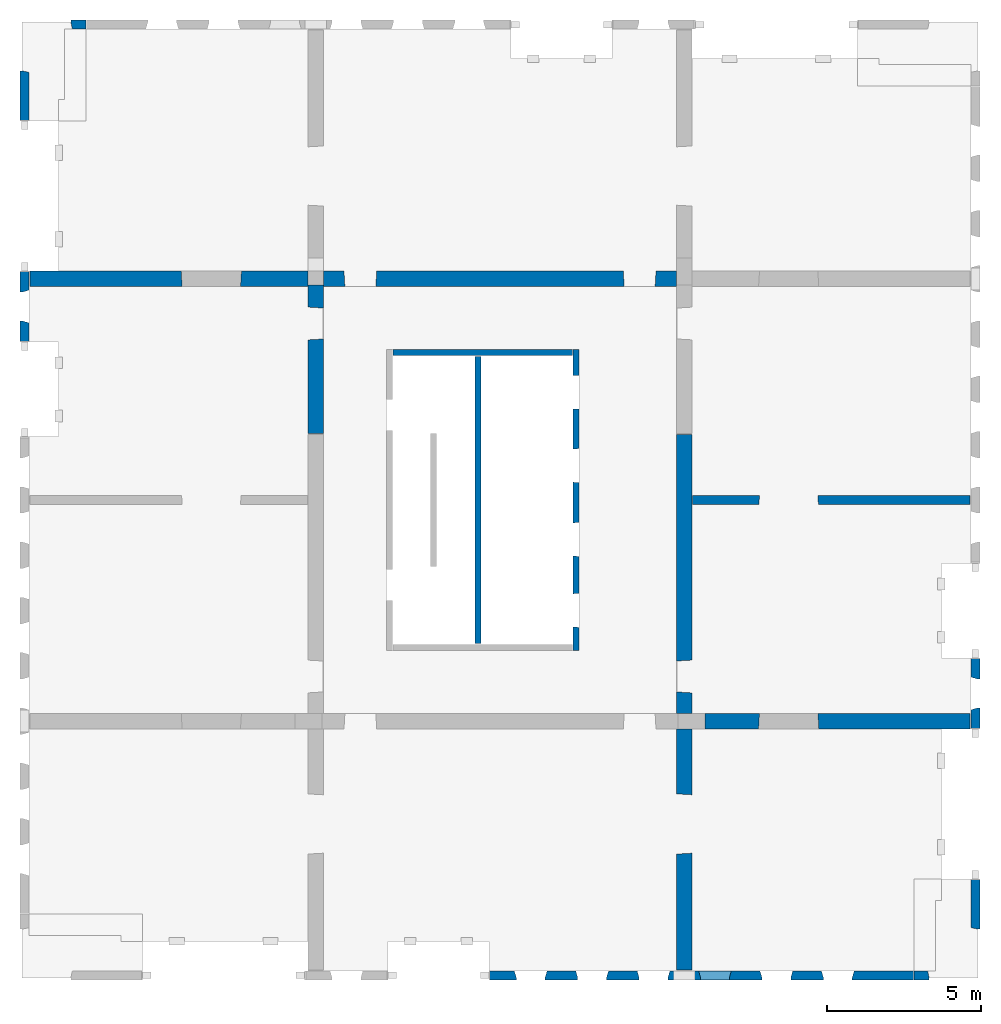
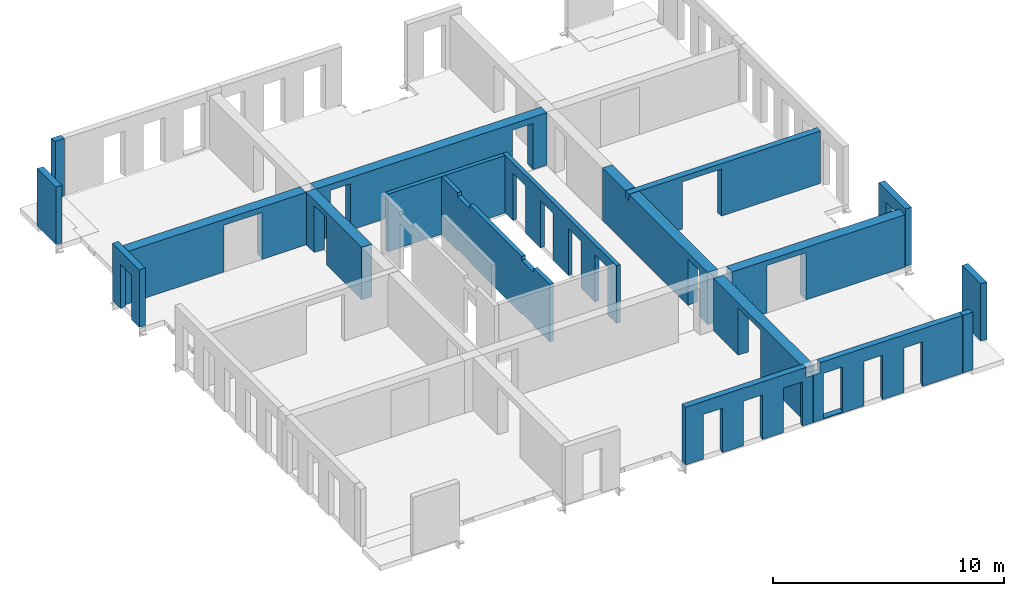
# One storey, part 3 of 4: 18 walls, 36 openings.
"""IFC2X3 building model written with IfcOpenShell, lengths in millimetres."""

from ifc_helpers import new_model, entity, si_unit, converted_unit, derived_unit, direction, frame, frame_2d, origin, origin_2d_with_axis, place, context, subcontext, project, spatial, rectangle, extrude, faceted_brep, material, layer, layer_set, layer_usage, type_object, element, save


model = new_model("IFC2X3")

# Units and contexts
model_context = context("Model", 3, precision=0.01, world=origin(), true_north=direction((6.12303176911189e-17, 1.0)))
body_context = subcontext(model_context, "Body", "Model", "MODEL_VIEW")
ifc_project = project(units=[si_unit("LENGTHUNIT", "METRE", prefix="MILLI"), si_unit("AREAUNIT", "SQUARE_METRE"), si_unit("VOLUMEUNIT", "CUBIC_METRE"), converted_unit("PLANEANGLEUNIT", "DEGREE", entity("IfcRatioMeasure", 0.0174532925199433), si_unit("PLANEANGLEUNIT", "RADIAN"), dimensions=[0, 0, 0, 0, 0, 0, 0]), si_unit("MASSUNIT", "GRAM", prefix="KILO"), derived_unit("MASSDENSITYUNIT", [(si_unit("MASSUNIT", "GRAM", prefix="KILO"), 1), (si_unit("LENGTHUNIT", "METRE"), -3)]), si_unit("TIMEUNIT", "SECOND"), si_unit("FREQUENCYUNIT", "HERTZ"), si_unit("THERMODYNAMICTEMPERATUREUNIT", "DEGREE_CELSIUS"), derived_unit("THERMALTRANSMITTANCEUNIT", [(si_unit("MASSUNIT", "GRAM", prefix="KILO"), 1), (si_unit("THERMODYNAMICTEMPERATUREUNIT", "KELVIN"), -1), (si_unit("TIMEUNIT", "SECOND"), -3)]), derived_unit("VOLUMETRICFLOWRATEUNIT", [(si_unit("LENGTHUNIT", "METRE"), 3), (si_unit("TIMEUNIT", "SECOND"), -1)]), si_unit("ELECTRICCURRENTUNIT", "AMPERE"), si_unit("ELECTRICVOLTAGEUNIT", "VOLT"), si_unit("POWERUNIT", "WATT"), si_unit("FORCEUNIT", "NEWTON", prefix="KILO"), si_unit("ILLUMINANCEUNIT", "LUX"), si_unit("LUMINOUSFLUXUNIT", "LUMEN"), si_unit("LUMINOUSINTENSITYUNIT", "CANDELA"), derived_unit("USERDEFINED", [(si_unit("MASSUNIT", "GRAM", prefix="KILO"), -1), (si_unit("LENGTHUNIT", "METRE"), -2), (si_unit("TIMEUNIT", "SECOND"), 3), (si_unit("LUMINOUSFLUXUNIT", "LUMEN"), 1)]), derived_unit("LINEARVELOCITYUNIT", [(si_unit("LENGTHUNIT", "METRE"), 1), (si_unit("TIMEUNIT", "SECOND"), -1)]), si_unit("PRESSUREUNIT", "PASCAL"), derived_unit("USERDEFINED", [(si_unit("LENGTHUNIT", "METRE"), -2), (si_unit("MASSUNIT", "GRAM", prefix="KILO"), 1), (si_unit("TIMEUNIT", "SECOND"), -2)])], contexts=[model_context])

# Site, building, storey
site_placement = place(None, origin())
site = spatial("IfcSite", under=ifc_project, at=site_placement, Name="Default", CompositionType="ELEMENT")
building_placement = place(site_placement, origin())
building = spatial("IfcBuilding", under=site, at=building_placement, Name="niet gebruiken", CompositionType="ELEMENT")
storey_placement = place(building_placement, frame((0.0, 0.0, 57780.0)))
storey = spatial("IfcBuildingStorey", under=building, at=storey_placement, Name="18 achttiende verdieping", CompositionType="ELEMENT", Elevation=57780.0)

# Wall, openings
ifc_material = material(Name="NLRS_f2_beton prefab")
ifc_layer_1 = layer(ifc_material, 200.0)
ifc_layer_set_1 = layer_set([ifc_layer_1], Name="Basic Wall:NLRS_22.21_WA_beton prefab d=200_gen")
ifc_layer_usage_1 = layer_usage(ifc_layer_set_1, "AXIS2", "NEGATIVE", 100.0)
wall_type_1 = type_object("IfcWallType", Name="Basic Wall:NLRS_22.21_WA_beton prefab d=200_gen", PredefinedType="STANDARD", material=ifc_layer_set_1)
wall_1_placement = place(storey_placement, frame((144230.0, 22400.0, -50.0), z_axis=(0.0, 0.0, 1.0), x_axis=(0.0, -1.0, 0.0)))
wall_1 = element("IfcWallStandardCase", 1, at=wall_1_placement, inside=storey, type_object=wall_type_1, material=ifc_layer_usage_1, Name="Basic Wall:NLRS_22.21_WA_beton prefab d=200_gen", ObjectType="Basic Wall:NLRS_22.21_WA_beton prefab d=200_gen", context=body_context, shape_type="SweptSolid", body=[
    extrude(rectangle(XDim=9800.0, YDim=199.999999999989, at=frame_2d((4900.0, -3.69482222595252e-13), x_axis=(-1.0, 0.0))), origin(), (0.0, 0.0, 1.0), 3040.0),
])
opening_1_placement = place(wall_1_placement, frame((9047.0, -100.0, 0.0)))
element("IfcOpeningElement", 2, at=opening_1_placement, cuts=wall_1, Name="Basic Wall:NLRS_22.21_WA_beton prefab d=200_gen", ObjectType="Opening", context=body_context, shape_type="Brep", body=[
    faceted_brep([(-1104.0, 200.0, 2502.0), (-1104.0, 200.0, 0.0), (-1092.0, 0.0, 0.0), (-1092.0, 0.0, 2490.0), (0.0, 200.0, 0.0), (-12.0, 0.0, 0.0), (-12.0, 0.0, 2490.0), (0.0, 200.0, 2502.0)], [[[0, 1, 2, 3]], [[1, 4, 5, 2]], [[6, 3, 2, 5]], [[7, 4, 1, 0]], [[7, 0, 3, 6]], [[4, 7, 6, 5]]]),
])
opening_2_placement = place(wall_1_placement, frame((6737.0, -100.0, 0.0)))
element("IfcOpeningElement", 3, at=opening_2_placement, cuts=wall_1, Name="Basic Wall:NLRS_22.21_WA_beton prefab d=200_gen", ObjectType="Opening", context=body_context, shape_type="Brep", body=[
    faceted_brep([(-1104.0, 200.0, 2502.0), (-1104.0, 200.0, 0.0), (-1092.0, 0.0, 0.0), (-1092.0, 0.0, 2490.0), (0.0, 200.0, 0.0), (-12.0, 0.0, 0.0), (-12.0, 0.0, 2490.0), (0.0, 200.0, 2502.0)], [[[0, 1, 2, 3]], [[1, 4, 5, 2]], [[6, 3, 2, 5]], [[7, 4, 1, 0]], [[7, 0, 3, 6]], [[4, 7, 6, 5]]]),
])
opening_3_placement = place(wall_1_placement, frame((4332.0, -100.0, 0.0)))
element("IfcOpeningElement", 4, at=opening_3_placement, cuts=wall_1, Name="Basic Wall:NLRS_22.21_WA_beton prefab d=200_gen", ObjectType="Opening", context=body_context, shape_type="Brep", body=[
    faceted_brep([(-1104.0, 200.0, 2502.0), (-1104.0, 200.0, 0.0), (-1092.0, 0.0, 0.0), (-1092.0, 0.0, 2490.0), (0.0, 200.0, 0.0), (-12.0, 0.0, 0.0), (-12.0, 0.0, 2490.0), (0.0, 200.0, 2502.0)], [[[0, 1, 2, 3]], [[1, 4, 5, 2]], [[6, 3, 2, 5]], [[7, 4, 1, 0]], [[7, 0, 3, 6]], [[4, 7, 6, 5]]]),
])
opening_4_placement = place(wall_1_placement, frame((1942.0, -100.0, 0.0)))
element("IfcOpeningElement", 5, at=opening_4_placement, cuts=wall_1, Name="Basic Wall:NLRS_22.21_WA_beton prefab d=200_gen", ObjectType="Opening", context=body_context, shape_type="Brep", body=[
    faceted_brep([(-1104.0, 200.0, 2502.0), (-1104.0, 200.0, 0.0), (-1092.0, 0.0, 0.0), (-1092.0, 0.0, 2490.0), (0.0, 200.0, 0.0), (-12.0, 0.0, 0.0), (-12.0, 0.0, 2490.0), (0.0, 200.0, 2502.0)], [[[0, 1, 2, 3]], [[1, 4, 5, 2]], [[6, 3, 2, 5]], [[7, 4, 1, 0]], [[7, 0, 3, 6]], [[4, 7, 6, 5]]]),
])

ifc_layer_usage_2 = layer_usage(ifc_layer_set_1, "AXIS2", "NEGATIVE", 100.0)
wall_2_placement = place(storey_placement, frame((141030.0, 22180.0, -50.0), z_axis=(0.0, 0.0, 1.0), x_axis=(0.0, -1.0, 0.0)))
wall_2 = element("IfcWallStandardCase", 6, at=wall_2_placement, inside=storey, type_object=wall_type_1, material=ifc_layer_usage_2, Name="Basic Wall:NLRS_22.21_WA_beton prefab d=200_gen", ObjectType="Basic Wall:NLRS_22.21_WA_beton prefab d=200_gen", context=body_context, shape_type="SweptSolid", body=[
    extrude(rectangle(XDim=9360.0, YDim=199.999999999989, at=frame_2d((4680.0, -2.8421709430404e-14), x_axis=(-1.0, 0.0))), origin(), (0.0, 0.0, 1.0), 3040.0),
])
opening_5_placement = place(wall_2_placement, origin())
element("IfcOpeningElement", 7, at=opening_5_placement, cuts=wall_2, Name="Basic Wall:NLRS_22.21_WA_beton prefab d=200_gen", ObjectType="Opening", context=body_context, shape_type="SweptSolid", body=[
    extrude(rectangle(XDim=70.0000000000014, YDim=1044.00000000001, at=frame_2d((-8.66506866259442e-12, 0.0), x_axis=(1.0, 0.0))), frame((7452.0, -100.0, 35.0), z_axis=(0.0, 1.0, 0.0), x_axis=(0.0, 0.0, -1.0)), (0.0, 0.0, 1.0), 199.999999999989),
])
opening_6_placement = place(wall_2_placement, origin())
element("IfcOpeningElement", 8, at=opening_6_placement, cuts=wall_2, Name="Basic Wall:NLRS_22.21_WA_beton prefab d=200_gen", ObjectType="Opening", context=body_context, shape_type="SweptSolid", body=[
    extrude(rectangle(XDim=70.0000000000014, YDim=1044.00000000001, at=frame_2d((-8.66506866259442e-12, 0.0), x_axis=(1.0, 0.0))), frame((1908.0, -100.0, 35.0), z_axis=(0.0, 1.0, 0.0), x_axis=(0.0, 0.0, -1.0)), (0.0, 0.0, 1.0), 199.999999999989),
])
opening_7_placement = place(wall_2_placement, origin())
element("IfcOpeningElement", 9, at=opening_7_placement, cuts=wall_2, Name="Basic Wall:NLRS_22.21_WA_beton prefab d=200_gen", ObjectType="Opening", context=body_context, shape_type="SweptSolid", body=[
    extrude(rectangle(XDim=199.999999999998, YDim=1044.00000000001, at=frame_2d((4.33431068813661e-12, 0.0), x_axis=(1.0, 0.0))), frame((1908.0, -100.0, 2940.0), z_axis=(0.0, 1.0, 0.0), x_axis=(0.0, 0.0, -1.0)), (0.0, 0.0, 1.0), 199.999999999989),
])
opening_8_placement = place(wall_2_placement, origin())
element("IfcOpeningElement", 10, at=opening_8_placement, cuts=wall_2, Name="Basic Wall:NLRS_22.21_WA_beton prefab d=200_gen", ObjectType="Opening", context=body_context, shape_type="SweptSolid", body=[
    extrude(rectangle(XDim=199.999999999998, YDim=1044.00000000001, at=frame_2d((4.33431068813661e-12, 0.0), x_axis=(1.0, 0.0))), frame((7452.0, -100.0, 2940.0), z_axis=(0.0, 1.0, 0.0), x_axis=(0.0, 0.0, -1.0)), (0.0, 0.0, 1.0), 199.999999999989),
])
opening_9_placement = place(wall_2_placement, origin())
element("IfcOpeningElement", 11, at=opening_9_placement, cuts=wall_2, Name="Basic Wall:NLRS_22.21_WA_beton prefab d=200_gen", ObjectType="Recess", context=body_context, shape_type="SweptSolid", body=[
    extrude(rectangle(XDim=399.999999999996, YDim=280.000000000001, at=frame_2d((-2.1600499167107e-12, 0.0), x_axis=(0.0, 1.0))), frame((770.0, -60.0, 438.0), z_axis=(0.0, 1.0, 0.0), x_axis=(1.0, 0.0, 0.0)), (0.0, 0.0, 1.0), 159.999999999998),
])
opening_10_placement = place(wall_2_placement, origin())
element("IfcOpeningElement", 12, at=opening_10_placement, cuts=wall_2, Name="Basic Wall:NLRS_22.21_WA_beton prefab d=200_gen", ObjectType="Recess", context=body_context, shape_type="SweptSolid", body=[
    extrude(rectangle(XDim=399.999999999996, YDim=280.000000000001, at=frame_2d((-2.1600499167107e-12, 0.0), x_axis=(0.0, 1.0))), frame((1570.0, -60.0, 438.0), z_axis=(0.0, 1.0, 0.0), x_axis=(1.0, 0.0, 0.0)), (0.0, 0.0, 1.0), 159.999999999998),
])
opening_11_placement = place(wall_2_placement, origin())
element("IfcOpeningElement", 13, at=opening_11_placement, cuts=wall_2, Name="Basic Wall:NLRS_22.21_WA_beton prefab d=200_gen", ObjectType="Recess", context=body_context, shape_type="SweptSolid", body=[
    extrude(rectangle(XDim=399.999999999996, YDim=279.999999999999, at=frame_2d((-1.08002495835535e-12, 0.0), x_axis=(0.0, 1.0))), frame((3160.0, -60.0, 438.0), z_axis=(0.0, 1.0, 0.0), x_axis=(1.0, 0.0, 0.0)), (0.0, 0.0, 1.0), 159.999999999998),
])
opening_12_placement = place(wall_2_placement, origin())
element("IfcOpeningElement", 14, at=opening_12_placement, cuts=wall_2, Name="Basic Wall:NLRS_22.21_WA_beton prefab d=200_gen", ObjectType="Recess", context=body_context, shape_type="SweptSolid", body=[
    extrude(rectangle(XDim=399.999999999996, YDim=279.999999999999, at=frame_2d((1.08002495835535e-12, 0.0), x_axis=(0.0, 1.0))), frame((3960.0, -60.0, 438.0), z_axis=(0.0, 1.0, 0.0), x_axis=(1.0, 0.0, 0.0)), (0.0, 0.0, 1.0), 159.999999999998),
])

# Wall
ifc_layer_usage_3 = layer_usage(ifc_layer_set_1, "AXIS2", "NEGATIVE", 100.0)
wall_3_placement = place(storey_placement, frame((138270.0, 22300.0, -50.0)))
element("IfcWallStandardCase", 15, at=wall_3_placement, inside=storey, type_object=wall_type_1, material=ifc_layer_usage_3, Name="Basic Wall:NLRS_22.21_WA_beton prefab d=200_gen", ObjectType="Basic Wall:NLRS_22.21_WA_beton prefab d=200_gen", context=body_context, shape_type="SweptSolid", body=[
    extrude(rectangle(XDim=5839.99999999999, YDim=199.999999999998, at=frame_2d((2919.99999999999, -7.60280727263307e-13), x_axis=(-1.0, 0.0))), origin(), (0.0, 0.0, 1.0), 3040.0),
])

# Wall, openings
ifc_layer_2 = layer(ifc_material, 300.0)
ifc_layer_set_2 = layer_set([ifc_layer_2], Name="Basic Wall:NLRS_22.21_WA_beton prefab d=300_gen")
ifc_layer_usage_4 = layer_usage(ifc_layer_set_2, "AXIS2", "NEGATIVE", 150.0)
wall_type_2 = type_object("IfcWallType", Name="Basic Wall:NLRS_22.21_WA_beton prefab d=300_gen", PredefinedType="STANDARD", material=ifc_layer_set_2)
wall_4_placement = place(storey_placement, frame((157060.0, 17500.0, -70.0), z_axis=(0.0, 0.0, 1.0), x_axis=(-1.0, 0.0, 0.0)))
wall_4 = element("IfcWallStandardCase", 16, at=wall_4_placement, inside=storey, type_object=wall_type_2, material=ifc_layer_usage_4, Name="Basic Wall:NLRS_22.21_WA_beton prefab d=300_gen", ObjectType="Basic Wall:NLRS_22.21_WA_beton prefab d=300_gen", context=body_context, shape_type="SweptSolid", body=[
    extrude(rectangle(XDim=9559.9999999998, YDim=300.000000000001, at=frame_2d((4779.9999999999, -7.53175299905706e-13), x_axis=(-1.0, 0.0))), origin(), (0.0, 0.0, 1.0), 2770.00000000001),
])
opening_13_placement = place(wall_4_placement, frame((6878.0, 150.0, 0.0)))
element("IfcOpeningElement", 17, at=opening_13_placement, cuts=wall_4, Name="Basic Wall:NLRS_22.21_WA_beton prefab d=300_gen", ObjectType="Opening", context=body_context, shape_type="Brep", body=[
    faceted_brep([(-18.0, -300.0, 2470.0), (-1918.0, -300.0, 2470.0), (-1918.0, -300.0, 0.0), (-18.0, -300.0, 0.0), (0.0, 0.0, 2488.0), (0.0, 0.0, 0.0), (-1936.0, 0.0, 0.0), (-1936.0, 0.0, 2488.0)], [[[0, 1, 2, 3]], [[4, 5, 6, 7]], [[4, 7, 1, 0]], [[7, 6, 2, 1]], [[6, 5, 3, 2]], [[5, 4, 0, 3]]]),
])
opening_14_placement = place(wall_4_placement, origin())
element("IfcOpeningElement", 18, at=opening_14_placement, cuts=wall_4, Name="Basic Wall:NLRS_22.21_WA_beton prefab d=300_gen", ObjectType="Opening", context=body_context, shape_type="SweptSolid", body=[
    extrude(rectangle(XDim=2440.00000000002, YDim=520.000000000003, at=frame_2d((8.64019966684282e-12, 0.0), x_axis=(0.0, 1.0))), frame((9300.0, 150.0, 1220.0), z_axis=(0.0, -1.0, 0.0), x_axis=(1.0, 0.0, 0.0)), (0.0, 0.0, 1.0), 300.0),
])

ifc_layer_3 = layer(ifc_material, 500.0)
ifc_layer_set_3 = layer_set([ifc_layer_3], Name="Basic Wall:NLRS_22.21_WA_beton prefab d=500_gen")
ifc_layer_usage_5 = layer_usage(ifc_layer_set_3, "AXIS2", "NEGATIVE", 250.0)
wall_type_3 = type_object("IfcWallType", Name="Basic Wall:NLRS_22.21_WA_beton prefab d=500_gen", PredefinedType="STANDARD", material=ifc_layer_set_3)
wall_5_placement = place(storey_placement, frame((136000.0, 24700.0, -70.0)))
wall_5 = element("IfcWallStandardCase", 19, at=wall_5_placement, inside=storey, type_object=wall_type_3, material=ifc_layer_usage_5, Name="Basic Wall:NLRS_22.21_WA_beton prefab d=500_gen", ObjectType="Basic Wall:NLRS_22.21_WA_beton prefab d=500_gen", context=body_context, shape_type="SweptSolid", body=[
    extrude(rectangle(XDim=11500.0, YDim=499.999999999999, at=frame_2d((5750.00000000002, 0.0), x_axis=(-1.0, 0.0))), origin(), (0.0, 0.0, 1.0), 2770.00000000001),
])
opening_15_placement = place(wall_5_placement, frame((670.0, -250.0, 0.0)))
element("IfcOpeningElement", 20, at=opening_15_placement, cuts=wall_5, Name="Basic Wall:NLRS_22.21_WA_beton prefab d=500_gen", ObjectType="Opening", context=body_context, shape_type="Brep", body=[
    faceted_brep([(1066.0, 500.0, 2478.0), (1036.0, 0.0, 2448.0), (1036.0, 0.0, 0.0), (1066.0, 500.0, 0.0), (30.0, 0.0, 0.0), (0.0, 500.0, 0.0), (30.0, 0.0, 2448.0), (0.0, 500.0, 2478.0)], [[[0, 1, 2, 3]], [[3, 2, 4, 5]], [[6, 4, 2, 1]], [[7, 0, 3, 5]], [[7, 6, 1, 0]], [[5, 4, 6, 7]]]),
])
opening_16_placement = place(wall_5_placement, frame((9764.0, -250.0, 0.0)))
element("IfcOpeningElement", 21, at=opening_16_placement, cuts=wall_5, Name="Basic Wall:NLRS_22.21_WA_beton prefab d=500_gen", ObjectType="Opening", context=body_context, shape_type="Brep", body=[
    faceted_brep([(30.0, 0.0, 2448.0), (30.0, 0.0, 0.0), (1036.0, 0.0, 0.0), (1036.0, 0.0, 2448.0), (0.0, 500.0, 2478.0), (1066.0, 500.0, 2478.0), (1066.0, 500.0, 0.0), (0.0, 500.0, 0.0)], [[[0, 1, 2, 3]], [[4, 5, 6, 7]], [[4, 0, 3, 5]], [[5, 3, 2, 6]], [[6, 2, 1, 7]], [[7, 1, 0, 4]]]),
])

# Wall, opening
ifc_layer_usage_6 = layer_usage(ifc_layer_set_3, "AXIS2", "NEGATIVE", 250.0)
wall_6_placement = place(storey_placement, frame((147750.0, 10050.0, -70.0), z_axis=(0.0, 0.0, 1.0), x_axis=(0.0, -1.0, 0.0)))
wall_6 = element("IfcWallStandardCase", 22, at=wall_6_placement, inside=storey, type_object=wall_type_3, material=ifc_layer_usage_6, Name="Basic Wall:NLRS_22.21_WA_beton prefab d=500_gen", ObjectType="Basic Wall:NLRS_22.21_WA_beton prefab d=500_gen", context=body_context, shape_type="SweptSolid", body=[
    extrude(rectangle(XDim=7859.99999999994, YDim=499.99999999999, at=frame_2d((3929.99999999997, 8.5265128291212e-14), x_axis=(-1.0, 0.0))), origin(), (0.0, 0.0, 1.0), 2769.99999999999),
])
opening_17_placement = place(wall_6_placement, frame((4080.0, -250.0, 0.0)))
element("IfcOpeningElement", 23, at=opening_17_placement, cuts=wall_6, Name="Basic Wall:NLRS_22.21_WA_beton prefab d=500_gen", ObjectType="Opening", context=body_context, shape_type="Brep", body=[
    faceted_brep([(-30.0, 500.0, 2470.0), (-30.0, 500.0, 0.0), (-1930.0, 500.0, 0.0), (-1930.0, 500.0, 2470.0), (0.0, 0.0, 2500.0), (-1960.0, 0.0, 2500.0), (-1960.0, 0.0, 0.0), (0.0, 0.0, 0.0)], [[[0, 1, 2, 3]], [[4, 5, 6, 7]], [[4, 0, 3, 5]], [[5, 3, 2, 6]], [[6, 2, 1, 7]], [[7, 1, 0, 4]]]),
])

ifc_layer_usage_7 = layer_usage(ifc_layer_set_3, "AXIS2", "NEGATIVE", 250.0)
wall_7_placement = place(storey_placement, frame((135500.0, 24700.0, -70.0), z_axis=(0.0, 0.0, 1.0), x_axis=(-1.0, 0.0, 0.0)))
wall_7 = element("IfcWallStandardCase", 24, at=wall_7_placement, inside=storey, type_object=wall_type_3, material=ifc_layer_usage_7, Name="Basic Wall:NLRS_22.21_WA_beton prefab d=500_gen", ObjectType="Basic Wall:NLRS_22.21_WA_beton prefab d=500_gen", context=body_context, shape_type="SweptSolid", body=[
    extrude(rectangle(XDim=9059.9999999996, YDim=499.999999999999, at=frame_2d((4529.9999999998, 7.24753590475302e-13), x_axis=(-1.0, 0.0))), origin(), (0.0, 0.0, 1.0), 2769.99999999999),
])
opening_18_placement = place(wall_7_placement, frame((4130.0, 250.0, 0.0)))
element("IfcOpeningElement", 25, at=opening_18_placement, cuts=wall_7, Name="Basic Wall:NLRS_22.21_WA_beton prefab d=500_gen", ObjectType="Opening", context=body_context, shape_type="Brep", body=[
    faceted_brep([(-1930.0, 0.0, 2470.0), (-30.0, 0.0, 2470.0), (-30.0, 0.0, 0.0), (-1930.0, 0.0, 0.0), (-1960.0, -500.0, 2500.0), (-1960.0, -500.0, 0.0), (0.0, -500.0, 0.0), (0.0, -500.0, 2500.0)], [[[0, 1, 2, 3]], [[4, 5, 6, 7]], [[4, 7, 1, 0]], [[7, 6, 2, 1]], [[6, 5, 3, 2]], [[5, 4, 0, 3]]]),
])

ifc_layer_usage_8 = layer_usage(ifc_layer_set_3, "AXIS2", "NEGATIVE", 250.0)
wall_8_placement = place(storey_placement, frame((148430.0, 10300.0, -70.0)))
wall_8 = element("IfcWallStandardCase", 26, at=wall_8_placement, inside=storey, type_object=wall_type_3, material=ifc_layer_usage_8, Name="Basic Wall:NLRS_22.21_WA_beton prefab d=500_gen", ObjectType="Basic Wall:NLRS_22.21_WA_beton prefab d=500_gen", context=body_context, shape_type="SweptSolid", body=[
    extrude(rectangle(XDim=8630.00000000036, YDim=499.999999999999, at=frame_2d((4315.00000000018, 2.70006239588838e-13), x_axis=(-1.0, 0.0))), origin(), (0.0, 0.0, 1.0), 2769.99999999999),
])
opening_19_placement = place(wall_8_placement, frame((1740.0, -250.0, 0.0)))
element("IfcOpeningElement", 27, at=opening_19_placement, cuts=wall_8, Name="Basic Wall:NLRS_22.21_WA_beton prefab d=500_gen", ObjectType="Opening", context=body_context, shape_type="Brep", body=[
    faceted_brep([(30.0, 500.0, 2470.0), (1930.0, 500.0, 2470.0), (1930.0, 500.0, 0.0), (30.0, 500.0, 0.0), (0.0, 0.0, 2500.0), (0.0, 0.0, 0.0), (1960.0, 0.0, 0.0), (1960.0, 0.0, 2500.0)], [[[0, 1, 2, 3]], [[4, 5, 6, 7]], [[4, 7, 1, 0]], [[7, 6, 2, 1]], [[6, 5, 3, 2]], [[5, 4, 0, 3]]]),
])

ifc_layer_usage_9 = layer_usage(ifc_layer_set_3, "AXIS2", "NEGATIVE", 250.0)
wall_9_placement = place(storey_placement, frame((135750.0, 24500.0, -70.0), z_axis=(0.0, 0.0, 1.0), x_axis=(0.0, -1.0, 0.0)))
wall_9 = element("IfcWallStandardCase", 28, at=wall_9_placement, inside=storey, type_object=wall_type_3, material=ifc_layer_usage_9, Name="Basic Wall:NLRS_22.21_WA_beton prefab d=500_gen", ObjectType="Basic Wall:NLRS_22.21_WA_beton prefab d=500_gen", context=body_context, shape_type="SweptSolid", body=[
    extrude(rectangle(XDim=4840.0, YDim=499.99999999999, at=frame_2d((2420.0, 0.0), x_axis=(-1.0, 0.0))), origin(), (0.0, 0.0, 1.0), 2770.00000000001),
])
opening_20_placement = place(wall_9_placement, frame((1786.0, -250.0, 0.0)))
element("IfcOpeningElement", 29, at=opening_20_placement, cuts=wall_9, Name="Basic Wall:NLRS_22.21_WA_beton prefab d=500_gen", ObjectType="Opening", context=body_context, shape_type="Brep", body=[
    faceted_brep([(-1066.0, 0.0, 2478.0), (-1036.0, 500.0, 2448.0), (-1036.0, 500.0, 0.0), (-1066.0, 0.0, 0.0), (-30.0, 500.0, 0.0), (0.0, 0.0, 0.0), (-30.0, 500.0, 2448.0), (0.0, 0.0, 2478.0)], [[[0, 1, 2, 3]], [[3, 2, 4, 5]], [[6, 4, 2, 1]], [[7, 0, 3, 5]], [[7, 6, 1, 0]], [[5, 4, 6, 7]]]),
])

# Wall, openings
ifc_layer_usage_10 = layer_usage(ifc_layer_set_3, "AXIS2", "NEGATIVE", 250.0)
wall_10_placement = place(storey_placement, frame((147750.0, 19640.0, -70.0), z_axis=(0.0, 0.0, 1.0), x_axis=(0.0, -1.0, 0.0)))
wall_10 = element("IfcWallStandardCase", 30, at=wall_10_placement, inside=storey, type_object=wall_type_3, material=ifc_layer_usage_10, Name="Basic Wall:NLRS_22.21_WA_beton prefab d=500_gen", ObjectType="Basic Wall:NLRS_22.21_WA_beton prefab d=500_gen", context=body_context, shape_type="SweptSolid", body=[
    extrude(rectangle(XDim=9089.99999999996, YDim=499.99999999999, at=frame_2d((4544.99999999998, 0.0), x_axis=(-1.0, 0.0))), origin(), (0.0, 0.0, 1.0), 2770.00000000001),
])
opening_21_placement = place(wall_10_placement, frame((8420.0, -250.0, 0.0)))
element("IfcOpeningElement", 31, at=opening_21_placement, cuts=wall_10, Name="Basic Wall:NLRS_22.21_WA_beton prefab d=500_gen", ObjectType="Opening", context=body_context, shape_type="Brep", body=[
    faceted_brep([(-1066.0, 500.0, 2478.0), (-1066.0, 500.0, 0.0), (-1036.0, 0.0, 0.0), (-1036.0, 0.0, 2448.0), (0.0, 500.0, 0.0), (-30.0, 0.0, 0.0), (-30.0, 0.0, 2448.0), (0.0, 500.0, 2478.0)], [[[0, 1, 2, 3]], [[1, 4, 5, 2]], [[6, 3, 2, 5]], [[7, 4, 1, 0]], [[7, 0, 3, 6]], [[4, 7, 6, 5]]]),
])
opening_22_placement = place(wall_10_placement, origin())
element("IfcOpeningElement", 32, at=opening_22_placement, cuts=wall_10, Name="Basic Wall:NLRS_22.21_WA_beton prefab d=500_gen", ObjectType="Opening", context=body_context, shape_type="SweptSolid", body=[
    extrude(rectangle(XDim=350.000000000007, YDim=339.999999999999, at=frame_2d((-1.08002495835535e-12, 0.0), x_axis=(0.0, 1.0))), frame((2140.0, 250.0, 2595.0), z_axis=(0.0, -1.0, 0.0), x_axis=(-1.0, 0.0, 0.0)), (0.0, 0.0, 1.0), 500.0),
])

# Wall, opening
ifc_layer_4 = layer(ifc_material, 300.0)
ifc_layer_set_4 = layer_set([ifc_layer_4], Name="Basic Wall:NLRS_21.21_WA_beton prefab d=300/320_gen")
ifc_layer_usage_11 = layer_usage(ifc_layer_set_4, "AXIS2", "NEGATIVE", 150.0)
wall_type_4 = type_object("IfcWallType", Name="Basic Wall:NLRS_21.21_WA_beton prefab d=300/320_gen", PredefinedType="STANDARD", material=ifc_layer_set_4)
wall_11_placement = place(storey_placement, frame((157230.0, 12360.0, -50.0), z_axis=(0.0, 0.0, 1.0), x_axis=(0.0, -1.0, 0.0)))
wall_11 = element("IfcWallStandardCase", 33, at=wall_11_placement, inside=storey, type_object=wall_type_4, material=ifc_layer_usage_11, Name="Basic Wall:NLRS_21.21_WA_beton prefab d=300/320_gen", ObjectType="Basic Wall:NLRS_21.21_WA_beton prefab d=300/320_gen", context=body_context, shape_type="SweptSolid", body=[
    extrude(rectangle(XDim=2320.00000000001, YDim=300.000000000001, at=frame_2d((1160.0, -8.38440428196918e-12), x_axis=(-1.0, 0.0))), origin(), (0.0, 0.0, 1.0), 3040.0),
])
opening_23_placement = place(wall_11_placement, frame((1695.0, -150.0, -20.0)))
element("IfcOpeningElement", 34, at=opening_23_placement, cuts=wall_11, Name="Basic Wall:NLRS_21.21_WA_beton prefab d=300/320_gen", ObjectType="Opening", context=body_context, shape_type="Brep", body=[
    faceted_brep([(-1070.0, 0.0, 2405.0), (-1070.0, 0.0, 0.0), (0.0, 0.0, 0.0), (0.0, 0.0, 2405.0), (-65.0, 219.0, 2370.0), (-1005.0, 219.0, 2370.0), (-65.0, 219.0, 0.0), (-1005.0, 219.0, 0.0), (-1005.0, 300.0, 0.0), (-65.0, 300.0, 0.0), (-1005.0, 300.0, 2370.0), (-65.0, 300.0, 2370.0)], [[[0, 1, 2, 3]], [[3, 4, 5, 0]], [[2, 6, 4, 3]], [[1, 7, 8, 9, 6, 2]], [[0, 5, 7, 1]], [[10, 11, 9, 8]], [[10, 5, 4, 11]], [[11, 4, 6, 9]], [[8, 7, 5, 10]]]),
])

ifc_layer_usage_12 = layer_usage(ifc_layer_set_4, "AXIS2", "NEGATIVE", 150.0)
wall_12_placement = place(storey_placement, frame((126270.0, 22640.0, -50.0), z_axis=(0.0, 0.0, 1.0), x_axis=(0.0, 1.0, 0.0)))
wall_12 = element("IfcWallStandardCase", 35, at=wall_12_placement, inside=storey, type_object=wall_type_4, material=ifc_layer_usage_12, Name="Basic Wall:NLRS_21.21_WA_beton prefab d=300/320_gen", ObjectType="Basic Wall:NLRS_21.21_WA_beton prefab d=300/320_gen", context=body_context, shape_type="SweptSolid", body=[
    extrude(rectangle(XDim=2320.0, YDim=300.000000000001, at=frame_2d((1160.0, -3.60955709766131e-12), x_axis=(-1.0, 0.0))), origin(), (0.0, 0.0, 1.0), 3040.0),
])
opening_24_placement = place(wall_12_placement, frame((625.0, 150.0, -20.0)))
element("IfcOpeningElement", 36, at=opening_24_placement, cuts=wall_12, Name="Basic Wall:NLRS_21.21_WA_beton prefab d=300/320_gen", ObjectType="Opening", context=body_context, shape_type="Brep", body=[
    faceted_brep([(0.0, -300.0, 2405.0), (0.0, -300.0, 0.0), (1070.0, -300.0, 0.0), (1070.0, -300.0, 2405.0), (1005.0, -81.0, 2370.0), (65.0, -81.0, 2370.0), (1005.0, -81.0, 0.0), (65.0, -81.0, 0.0), (65.0, 0.0, 0.0), (1005.0, 0.0, 0.0), (65.0, 0.0, 2370.0), (1005.0, 0.0, 2370.0)], [[[0, 1, 2, 3]], [[3, 4, 5, 0]], [[2, 6, 4, 3]], [[1, 7, 8, 9, 6, 2]], [[0, 5, 7, 1]], [[10, 11, 9, 8]], [[10, 5, 4, 11]], [[11, 4, 6, 9]], [[8, 7, 5, 10]]]),
])

# Wall, openings
ifc_layer_usage_13 = layer_usage(ifc_layer_set_4, "AXIS2", "NEGATIVE", 150.0)
wall_13_placement = place(storey_placement, frame((155210.0, 2020.0, -50.0), z_axis=(0.0, 0.0, 1.0), x_axis=(-1.0, 0.0, 0.0)))
wall_13 = element("IfcWallStandardCase", 37, at=wall_13_placement, inside=storey, type_object=wall_type_4, material=ifc_layer_usage_13, Name="Basic Wall:NLRS_21.21_WA_beton prefab d=300/320_gen", ObjectType="Basic Wall:NLRS_21.21_WA_beton prefab d=300/320_gen", context=body_context, shape_type="SweptSolid", body=[
    extrude(rectangle(XDim=7449.99999999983, YDim=300.0, at=frame_2d((3724.99999999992, 5.6843418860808e-14), x_axis=(-1.0, 0.0))), origin(), (0.0, 0.0, 1.0), 3040.0),
])
opening_25_placement = place(wall_13_placement, frame((4995.0, 150.0, -20.0)))
element("IfcOpeningElement", 38, at=opening_25_placement, cuts=wall_13, Name="Basic Wall:NLRS_21.21_WA_beton prefab d=300/320_gen", ObjectType="Opening", context=body_context, shape_type="Brep", body=[
    faceted_brep([(0.0, -300.0, 2405.0), (-1070.0, -300.0, 2405.0), (-1070.0, -300.0, 0.0), (0.0, -300.0, 0.0), (-65.0, -81.0, 2370.0), (-1005.0, -81.0, 2370.0), (-1005.0, -81.0, 0.0), (-1005.0, 0.0, 0.0), (-65.0, 0.0, 0.0), (-65.0, -81.0, 0.0), (-65.0, 0.0, 2370.0), (-1005.0, 0.0, 2370.0)], [[[0, 1, 2, 3]], [[1, 0, 4, 5]], [[2, 1, 5, 6]], [[3, 2, 6, 7, 8, 9]], [[0, 3, 9, 4]], [[10, 8, 7, 11]], [[10, 11, 5, 4]], [[11, 7, 6, 5]], [[8, 10, 4, 9]]]),
])
opening_26_placement = place(wall_13_placement, frame((2995.0, 150.0, -20.0)))
element("IfcOpeningElement", 39, at=opening_26_placement, cuts=wall_13, Name="Basic Wall:NLRS_21.21_WA_beton prefab d=300/320_gen", ObjectType="Opening", context=body_context, shape_type="Brep", body=[
    faceted_brep([(0.0, -300.0, 2405.0), (-1070.0, -300.0, 2405.0), (-1070.0, -300.0, 0.0), (0.0, -300.0, 0.0), (-65.0, -81.0, 2370.0), (-1005.0, -81.0, 2370.0), (-1005.0, -81.0, 0.0), (-1005.0, 0.0, 0.0), (-65.0, 0.0, 0.0), (-65.0, -81.0, 0.0), (-65.0, 0.0, 2370.0), (-1005.0, 0.0, 2370.0)], [[[0, 1, 2, 3]], [[1, 0, 4, 5]], [[2, 1, 5, 6]], [[3, 2, 6, 7, 8, 9]], [[0, 3, 9, 4]], [[10, 8, 7, 11]], [[10, 11, 5, 4]], [[11, 7, 6, 5]], [[8, 10, 4, 9]]]),
])
opening_27_placement = place(wall_13_placement, frame((6995.0, 150.0, 50.0)))
element("IfcOpeningElement", 40, at=opening_27_placement, cuts=wall_13, Name="Basic Wall:NLRS_21.21_WA_beton prefab d=300/320_gen", ObjectType="Opening", context=body_context, shape_type="Brep", body=[
    faceted_brep([(0.0, -300.0, 2405.0), (-1070.0, -300.0, 2405.0), (-1070.0, -300.0, 0.0), (0.0, -300.0, 0.0), (-65.0, -81.0, 2370.0), (-1005.0, -81.0, 2370.0), (-1005.0, -81.0, 0.0), (-1005.0, 0.0, 0.0), (-65.0, 0.0, 0.0), (-65.0, -81.0, 0.0), (-65.0, 0.0, 2370.0), (-1005.0, 0.0, 2370.0)], [[[0, 1, 2, 3]], [[1, 0, 4, 5]], [[2, 1, 5, 6]], [[3, 2, 6, 7, 8, 9]], [[0, 3, 9, 4]], [[10, 8, 7, 11]], [[10, 11, 5, 4]], [[11, 7, 6, 5]], [[8, 10, 4, 9]]]),
])
opening_28_placement = place(wall_13_placement, origin())
element("IfcOpeningElement", 41, at=opening_28_placement, cuts=wall_13, Name="Basic Wall:NLRS_21.21_WA_beton prefab d=300/320_gen", ObjectType="Opening", context=body_context, shape_type="SweptSolid", body=[
    extrude(rectangle(XDim=535.0, YDim=344.999999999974, at=origin_2d_with_axis()), frame((7277.49999999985, 150.0, 2772.5), z_axis=(0.0, -1.0, 0.0), x_axis=(0.0, 0.0, 1.0)), (0.0, 0.0, 1.0), 300.0),
])

# Wall, opening
ifc_layer_usage_14 = layer_usage(ifc_layer_set_4, "AXIS2", "NEGATIVE", 150.0)
wall_14_placement = place(storey_placement, frame((127780.0, 32980.0, -50.0)))
wall_14 = element("IfcWallStandardCase", 42, at=wall_14_placement, inside=storey, type_object=wall_type_4, material=ifc_layer_usage_14, Name="Basic Wall:NLRS_21.21_WA_beton prefab d=300/320_gen", ObjectType="Basic Wall:NLRS_21.21_WA_beton prefab d=300/320_gen", context=body_context, shape_type="SweptSolid", body=[
    extrude(rectangle(XDim=489.999999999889, YDim=300.000000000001, at=frame_2d((244.999999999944, -6.67910171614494e-13), x_axis=(-1.0, 0.0))), origin(), (0.0, 0.0, 1.0), 3040.0),
])
opening_29_placement = place(wall_14_placement, frame((0.0, -250.0, 0.0)))
element("IfcOpeningElement", 43, at=opening_29_placement, cuts=wall_14, Name="Basic Wall:NLRS_21.21_WA_beton prefab d=300/320_gen", ObjectType="Opening", context=body_context, shape_type="Brep", body=[
    faceted_brep([(0.0, 0.0, 3040.0), (65.0, 0.0, 3040.0), (0.0, 319.0, 3040.0), (0.0, 0.0, 0.0), (0.0, 319.0, 0.0), (65.0, 0.0, 0.0)], [[[0, 1, 2]], [[3, 4, 5]], [[1, 0, 3, 5]], [[0, 2, 4, 3]], [[2, 1, 5, 4]]]),
])

ifc_layer_usage_15 = layer_usage(ifc_layer_set_4, "AXIS2", "NEGATIVE", 150.0)
wall_15_placement = place(storey_placement, frame((126270.0, 29840.0, -50.0), z_axis=(0.0, 0.0, 1.0), x_axis=(0.0, 1.0, 0.0)))
wall_15 = element("IfcWallStandardCase", 44, at=wall_15_placement, inside=storey, type_object=wall_type_4, material=ifc_layer_usage_15, Name="Basic Wall:NLRS_21.21_WA_beton prefab d=300/320_gen", ObjectType="Basic Wall:NLRS_21.21_WA_beton prefab d=300/320_gen", context=body_context, shape_type="SweptSolid", body=[
    extrude(rectangle(XDim=1629.99999999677, YDim=300.000000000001, at=frame_2d((814.999999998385, 8.95283847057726e-13), x_axis=(-1.0, 0.0))), origin(), (0.0, 0.0, 1.0), 3040.0),
])
opening_30_placement = place(wall_15_placement, frame((1565.0, 69.0, 0.0)))
element("IfcOpeningElement", 45, at=opening_30_placement, cuts=wall_15, Name="Basic Wall:NLRS_21.21_WA_beton prefab d=300/320_gen", ObjectType="Opening", context=body_context, shape_type="Brep", body=[
    faceted_brep([(65.0, -319.0, 3040.0), (65.0, 0.0, 3040.0), (0.0, -319.0, 3040.0), (65.0, -319.0, 0.0), (0.0, -319.0, 0.0), (65.0, 0.0, 0.0)], [[[0, 1, 2]], [[3, 4, 5]], [[2, 4, 3, 0]], [[0, 3, 5, 1]], [[1, 5, 4, 2]]]),
])

ifc_layer_usage_16 = layer_usage(ifc_layer_set_4, "AXIS2", "NEGATIVE", 150.0)
wall_16_placement = place(storey_placement, frame((155720.0, 2020.0, -50.0), z_axis=(0.0, 0.0, 1.0), x_axis=(-1.0, 0.0, 0.0)))
wall_16 = element("IfcWallStandardCase", 46, at=wall_16_placement, inside=storey, type_object=wall_type_4, material=ifc_layer_usage_16, Name="Basic Wall:NLRS_21.21_WA_beton prefab d=300/320_gen", ObjectType="Basic Wall:NLRS_21.21_WA_beton prefab d=300/320_gen", context=body_context, shape_type="SweptSolid", body=[
    extrude(rectangle(XDim=489.999999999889, YDim=300.0, at=frame_2d((244.999999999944, 4.2632564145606e-14), x_axis=(-1.0, 0.0))), origin(), (0.0, 0.0, 1.0), 3040.0),
])
opening_31_placement = place(wall_16_placement, frame((65.0, 69.0, 0.0)))
element("IfcOpeningElement", 47, at=opening_31_placement, cuts=wall_16, Name="Basic Wall:NLRS_21.21_WA_beton prefab d=300/320_gen", ObjectType="Opening", context=body_context, shape_type="Brep", body=[
    faceted_brep([(-65.0, -319.0, 3040.0), (0.0, -319.0, 3040.0), (-65.0, 0.0, 3040.0), (-65.0, -319.0, 0.0), (-65.0, 0.0, 0.0), (0.0, -319.0, 0.0)], [[[0, 1, 2]], [[3, 4, 5]], [[1, 0, 3, 5]], [[0, 2, 4, 3]], [[2, 1, 5, 4]]]),
])

ifc_layer_usage_17 = layer_usage(ifc_layer_set_4, "AXIS2", "NEGATIVE", 150.0)
wall_17_placement = place(storey_placement, frame((157230.0, 5160.0, -50.0), z_axis=(0.0, 0.0, 1.0), x_axis=(0.0, -1.0, 0.0)))
wall_17 = element("IfcWallStandardCase", 48, at=wall_17_placement, inside=storey, type_object=wall_type_4, material=ifc_layer_usage_17, Name="Basic Wall:NLRS_21.21_WA_beton prefab d=300/320_gen", ObjectType="Basic Wall:NLRS_21.21_WA_beton prefab d=300/320_gen", context=body_context, shape_type="SweptSolid", body=[
    extrude(rectangle(XDim=1629.99999999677, YDim=300.000000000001, at=frame_2d((814.999999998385, 4.76063632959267e-12), x_axis=(-1.0, 0.0))), origin(), (0.0, 0.0, 1.0), 3040.0),
])
opening_32_placement = place(wall_17_placement, frame((1630.0, -250.0, 0.0)))
element("IfcOpeningElement", 49, at=opening_32_placement, cuts=wall_17, Name="Basic Wall:NLRS_21.21_WA_beton prefab d=300/320_gen", ObjectType="Opening", context=body_context, shape_type="Brep", body=[
    faceted_brep([(0.0, 0.0, 3040.0), (0.0, 319.0, 3040.0), (-65.0, 0.0, 3040.0), (0.0, 0.0, 0.0), (-65.0, 0.0, 0.0), (0.0, 319.0, 0.0)], [[[0, 1, 2]], [[3, 4, 5]], [[2, 4, 3, 0]], [[0, 3, 5, 1]], [[1, 5, 4, 2]]]),
])

# Wall, openings
ifc_layer_usage_18 = layer_usage(ifc_layer_set_4, "AXIS2", "NEGATIVE", 150.0)
wall_18_placement = place(storey_placement, frame((147740.0, 2020.0, -50.0), z_axis=(0.0, 0.0, 1.0), x_axis=(-1.0, 0.0, 0.0)))
wall_18 = element("IfcWallStandardCase", 50, at=wall_18_placement, inside=storey, type_object=wall_type_4, material=ifc_layer_usage_18, Name="Basic Wall:NLRS_21.21_WA_beton prefab d=300/320_gen", ObjectType="Basic Wall:NLRS_21.21_WA_beton prefab d=300/320_gen", context=body_context, shape_type="SweptSolid", body=[
    extrude(rectangle(XDim=6350.00000000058, YDim=300.0, at=frame_2d((3175.00000000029, -4.2632564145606e-14), x_axis=(-1.0, 0.0))), origin(), (0.0, 0.0, 1.0), 3040.0),
])
opening_33_placement = place(wall_18_placement, frame((1525.0, 150.0, -20.0)))
element("IfcOpeningElement", 51, at=opening_33_placement, cuts=wall_18, Name="Basic Wall:NLRS_21.21_WA_beton prefab d=300/320_gen", ObjectType="Opening", context=body_context, shape_type="Brep", body=[
    faceted_brep([(0.0, -300.0, 2405.0), (-1070.0, -300.0, 2405.0), (-1070.0, -300.0, 0.0), (0.0, -300.0, 0.0), (-65.0, -81.0, 2370.0), (-1005.0, -81.0, 2370.0), (-1005.0, -81.0, 0.0), (-1005.0, 0.0, 0.0), (-65.0, 0.0, 0.0), (-65.0, -81.0, 0.0), (-65.0, 0.0, 2370.0), (-1005.0, 0.0, 2370.0)], [[[0, 1, 2, 3]], [[1, 0, 4, 5]], [[2, 1, 5, 6]], [[3, 2, 6, 7, 8, 9]], [[0, 3, 9, 4]], [[10, 8, 7, 11]], [[10, 11, 5, 4]], [[11, 7, 6, 5]], [[8, 10, 4, 9]]]),
])
opening_34_placement = place(wall_18_placement, frame((3525.0, 150.0, -20.0)))
element("IfcOpeningElement", 52, at=opening_34_placement, cuts=wall_18, Name="Basic Wall:NLRS_21.21_WA_beton prefab d=300/320_gen", ObjectType="Opening", context=body_context, shape_type="Brep", body=[
    faceted_brep([(0.0, -300.0, 2405.0), (-1070.0, -300.0, 2405.0), (-1070.0, -300.0, 0.0), (0.0, -300.0, 0.0), (-65.0, -81.0, 2370.0), (-1005.0, -81.0, 2370.0), (-1005.0, -81.0, 0.0), (-1005.0, 0.0, 0.0), (-65.0, 0.0, 0.0), (-65.0, -81.0, 0.0), (-65.0, 0.0, 2370.0), (-1005.0, 0.0, 2370.0)], [[[0, 1, 2, 3]], [[1, 0, 4, 5]], [[2, 1, 5, 6]], [[3, 2, 6, 7, 8, 9]], [[0, 3, 9, 4]], [[10, 8, 7, 11]], [[10, 11, 5, 4]], [[11, 7, 6, 5]], [[8, 10, 4, 9]]]),
])
opening_35_placement = place(wall_18_placement, frame((5525.0, 150.0, -20.0)))
element("IfcOpeningElement", 53, at=opening_35_placement, cuts=wall_18, Name="Basic Wall:NLRS_21.21_WA_beton prefab d=300/320_gen", ObjectType="Opening", context=body_context, shape_type="Brep", body=[
    faceted_brep([(0.0, -300.0, 2405.0), (-1070.0, -300.0, 2405.0), (-1070.0, -300.0, 0.0), (0.0, -300.0, 0.0), (-65.0, -81.0, 2370.0), (-1005.0, -81.0, 2370.0), (-1005.0, -81.0, 0.0), (-1005.0, 0.0, 0.0), (-65.0, 0.0, 0.0), (-65.0, -81.0, 0.0), (-65.0, 0.0, 2370.0), (-1005.0, 0.0, 2370.0)], [[[0, 1, 2, 3]], [[1, 0, 4, 5]], [[2, 1, 5, 6]], [[3, 2, 6, 7, 8, 9]], [[0, 3, 9, 4]], [[10, 8, 7, 11]], [[10, 11, 5, 4]], [[11, 7, 6, 5]], [[8, 10, 4, 9]]]),
])
opening_36_placement = place(wall_18_placement, origin())
element("IfcOpeningElement", 54, at=opening_36_placement, cuts=wall_18, Name="Basic Wall:NLRS_21.21_WA_beton prefab d=300/320_gen", ObjectType="Opening", context=body_context, shape_type="SweptSolid", body=[
    extrude(rectangle(XDim=534.999999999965, YDim=345.000000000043, at=frame_2d((0.0, 0.0), x_axis=(0.0, 1.0))), frame((172.500000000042, 150.0, 2772.50000000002), z_axis=(0.0, -1.0, 0.0), x_axis=(-1.0, 0.0, 0.0)), (0.0, 0.0, 1.0), 300.0),
])

save(model, "model.ifc")
